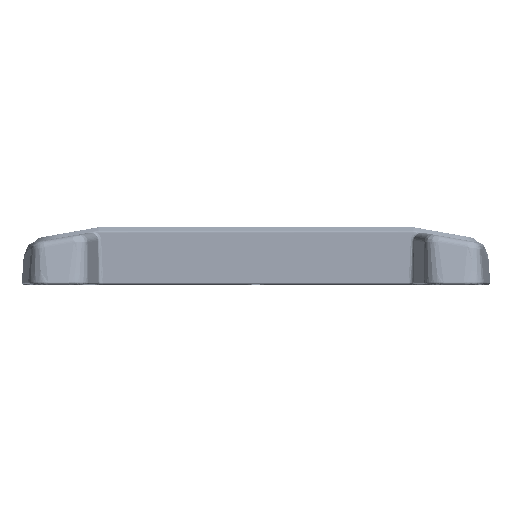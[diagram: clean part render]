
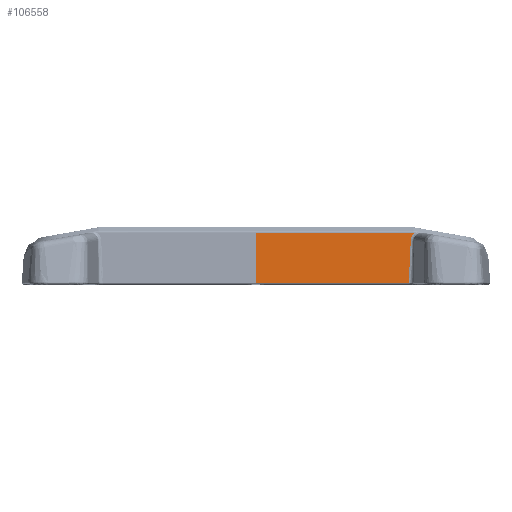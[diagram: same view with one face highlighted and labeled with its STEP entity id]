
A CAD part, top view. The second image highlights one B-rep face of the part: STEP entity #106558.
In plain terms, the highlighted planar face has unit normal (0, 0.018, 1).
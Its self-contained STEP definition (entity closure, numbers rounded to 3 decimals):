
#38253=CARTESIAN_POINT('',(-11.902,2.035,
167.4));
#38400=DIRECTION('',(0.,1.,-0.017));
#38401=VECTOR('',#38400,63.366);
#38402=CARTESIAN_POINT('',(-205.,2.035,167.4));
#38403=LINE('',#38402,#38401);
#38407=DIRECTION('',(-1.,0.,0.));
#38408=VECTOR('',#38407,198.773);
#38409=CARTESIAN_POINT('',(-6.227,65.391,
166.294));
#38410=LINE('',#38409,#38408);
#38414=DIRECTION('',(-0.985,0.175,-0.003));
#38415=VECTOR('',#38414,1.445);
#38416=CARTESIAN_POINT('',(-4.804,65.138,
166.298));
#38417=LINE('',#38416,#38415);
#38421=CARTESIAN_POINT('',(-9.408,55.161,
166.472));
#38422=CARTESIAN_POINT('',(-9.393,55.539,
166.466));
#38423=CARTESIAN_POINT('',(-9.334,56.29,
166.453));
#38424=CARTESIAN_POINT('',(-9.157,57.409,
166.433));
#38425=CARTESIAN_POINT('',(-8.893,58.509,
166.414));
#38426=CARTESIAN_POINT('',(-8.543,59.584,
166.395));
#38427=CARTESIAN_POINT('',(-8.111,60.626,
166.377));
#38428=CARTESIAN_POINT('',(-7.597,61.631,
166.359));
#38429=CARTESIAN_POINT('',(-7.007,62.591,
166.343));
#38430=CARTESIAN_POINT('',(-6.344,63.501,
166.327));
#38431=CARTESIAN_POINT('',(-5.611,64.356,
166.312));
#38432=CARTESIAN_POINT('',(-5.081,64.884,
166.303));
#38433=CARTESIAN_POINT('',(-4.804,65.138,
166.298));
#38438=CARTESIAN_POINT('',(-11.902,2.035,
167.4));
#38439=CARTESIAN_POINT('',(-11.432,11.72,
167.231));
#38440=CARTESIAN_POINT('',(-10.505,30.258,
166.907));
#38441=CARTESIAN_POINT('',(-9.719,47.135,
166.612));
#38442=CARTESIAN_POINT('',(-9.408,55.161,
166.472));
#38447=DIRECTION('',(1.,0.,0.));
#38448=VECTOR('',#38447,193.098);
#38449=CARTESIAN_POINT('',(-205.,2.035,167.4));
#38450=LINE('',#38449,#38448);
#38472=CARTESIAN_POINT('',(-6.227,65.391,
166.294));
#41079=VERTEX_POINT('',#38421);
#41080=VERTEX_POINT('',#38433);
#41094=VERTEX_POINT('',#38472);
#41156=VERTEX_POINT('',#38253);
#42659=CARTESIAN_POINT('',(-205.,2.035,167.4));
#42660=CARTESIAN_POINT('',(-205.,65.392,166.294));
#42661=VERTEX_POINT('',#42659);
#42662=VERTEX_POINT('',#42660);
#106543=CARTESIAN_POINT('',(-205.,0.,167.435));
#106544=DIRECTION('',(0.,0.017,1.));
#106545=DIRECTION('',(0.,1.,-0.017));
#106546=AXIS2_PLACEMENT_3D('',#106543,#106544,#106545);
#106547=PLANE('',#106546);
#106548=ORIENTED_EDGE('',*,*,#44671,.T.);
#106550=ORIENTED_EDGE('',*,*,#106549,.F.);
#106552=ORIENTED_EDGE('',*,*,#106551,.F.);
#106553=ORIENTED_EDGE('',*,*,#106177,.F.);
#106554=ORIENTED_EDGE('',*,*,#106211,.F.);
#106555=ORIENTED_EDGE('',*,*,#106536,.F.);
#106556=EDGE_LOOP('',(#106548,#106550,#106552,#106553,#106554,#106555));
#106557=FACE_OUTER_BOUND('',#106556,.F.);
#38434=B_SPLINE_CURVE_WITH_KNOTS('',3,(#38421,#38422,#38423,#38424,#38425,
#38426,#38427,#38428,#38429,#38430,#38431,#38432,#38433),.UNSPECIFIED.,.F.,.F.,(
4,1,1,1,1,1,1,1,1,1,4),(0.,0.1,0.2,0.3,0.4,0.5,0.6,0.7,0.8,
0.9,1.),.UNSPECIFIED.);
#38443=B_SPLINE_CURVE_WITH_KNOTS('',3,(#38438,#38439,#38440,#38441,#38442),
.UNSPECIFIED.,.F.,.F.,(4,1,4),(0.,0.5,1.),.UNSPECIFIED.);
#44671=EDGE_CURVE('',#42661,#42662,#38403,.T.);
#106177=EDGE_CURVE('',#41079,#41080,#38434,.T.);
#106211=EDGE_CURVE('',#41156,#41079,#38443,.T.);
#106536=EDGE_CURVE('',#42661,#41156,#38450,.T.);
#106549=EDGE_CURVE('',#41094,#42662,#38410,.T.);
#106551=EDGE_CURVE('',#41080,#41094,#38417,.T.);
#106558=ADVANCED_FACE('',(#106557),#106547,.T.);
